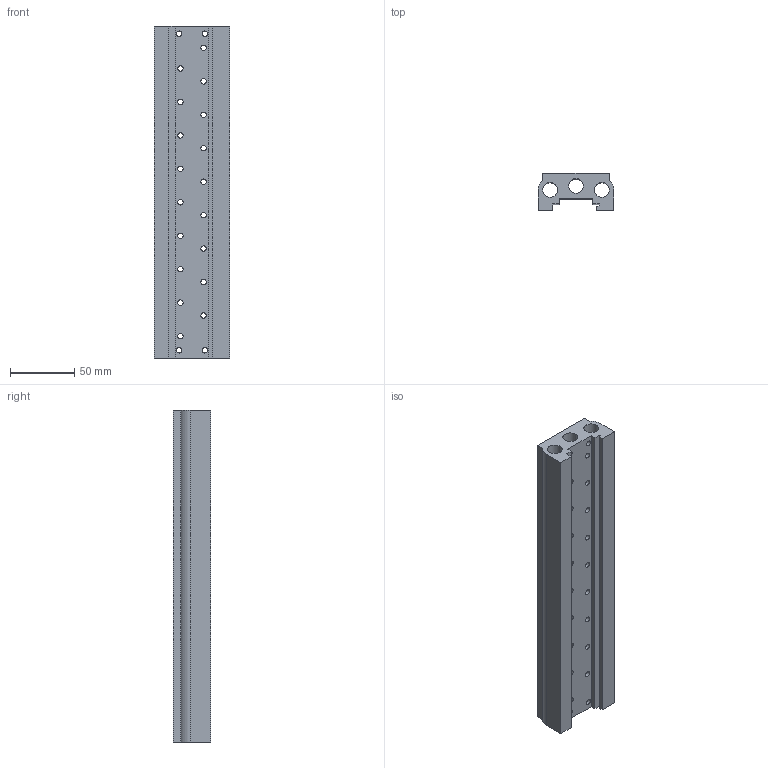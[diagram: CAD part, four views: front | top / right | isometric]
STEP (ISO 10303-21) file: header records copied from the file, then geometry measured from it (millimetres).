
FILE_DESCRIPTION((''),'2;1');
FILE_NAME('K:\A-Roberto\_Inventor\Rev.Librerie\TECNOECO\T488_ ##\T488_ 09.stp','2006-10-06T08:55:48',('rivolro1'),(''),'Autodesk Inventor 11','Autodesk Inventor 11','');
FILE_SCHEMA(('AUTOMOTIVE_DESIGN { 1 0 10303 214 1 1 1 1 }'));
Length unit declared in the file: millimetre
Products named in the file (1): T488_ 09
Bounding box: 59 x 29 x 258 mm (x, y, z)
Volume: 257359.1 mm3; surface area: 89351.3 mm2
Topology: 1 solids, 1 shells, 206 faces, 474 edges, 310 vertices
Faces by surface type: bspline 183, plane 18, cylinder 5
Full cylindrical faces by diameter (mm): 11.5 x3
Entity records: 8938 total; most frequent: CARTESIAN_POINT 5346, ORIENTED_EDGE 620, DIRECTION 528, EDGE_LOOP 478, EDGE_CURVE 310, VERTEX_POINT 274, FACE_BOUND 272, AXIS2_PLACEMENT_3D 239
